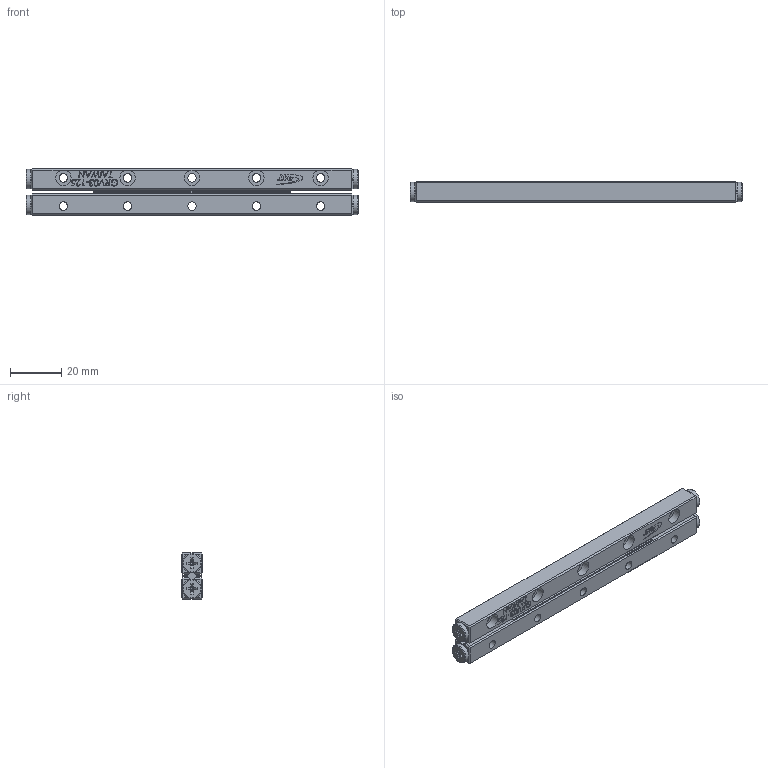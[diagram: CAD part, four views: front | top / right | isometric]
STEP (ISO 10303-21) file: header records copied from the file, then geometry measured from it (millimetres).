
FILE_DESCRIPTION (( 'STEP AP203' ), '1' );
FILE_NAME ('GRV03-125.STEP', '2023-10-13T02:00:43', ( '' ), ( '' ), 'SwSTEP 2.0', 'SolidWorks 2019', '' );
FILE_SCHEMA (( 'CONFIG_CONTROL_DESIGN' ));
Length unit declared in the file: millimetre
Products named in the file (3): GRV03-125-模糊化軌道; GRV03-125; GRVP03-125-模糊化保持器組
Assembly tree (3 placements, depth 2):
  GRV03-125
    GRV03-125-模糊化軌道  x2
    GRVP03-125-模糊化保持器組
Bounding box: 129 x 8 x 18 mm (x, y, z)
Volume: 15537.8 mm3; surface area: 11499.7 mm2
Topology: 3 solids, 3 shells, 974 faces, 2424 edges, 1562 vertices
Faces by surface type: plane 662, bspline 122, cylinder 116, torus 38, cone 36
Full cylindrical faces by diameter (mm): 3.3 x10, 6 x10, 7.5 x4
Entity records: 21782 total; most frequent: CARTESIAN_POINT 7451, ORIENTED_EDGE 3026, DIRECTION 2555, EDGE_CURVE 1513, LINE 1003, VECTOR 1003, VERTEX_POINT 990, AXIS2_PLACEMENT_3D 776
